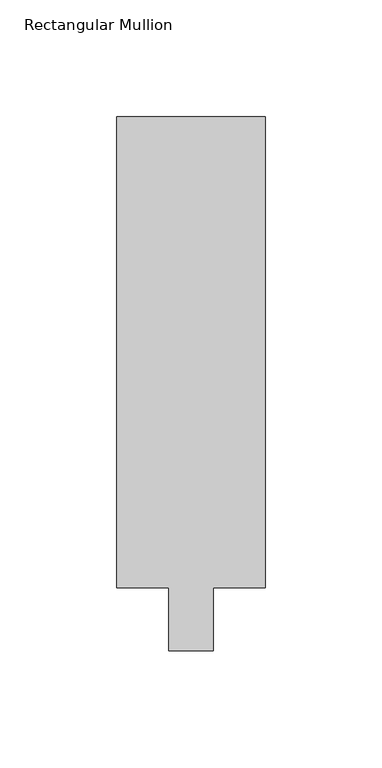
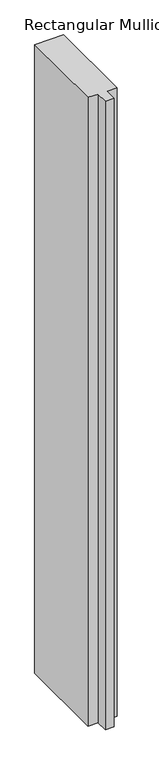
"""IFC4 building model written with IfcOpenShell, lengths in millimetres: member geometry."""

from ifc_helpers import new_model, si_unit, frame, origin, place, context, project, spatial, polyline, outline, extrude, source, transform, mapped, element, save


def rectangular_mullion_a33d8cd0(model_context):
    return source(origin(), model_context, "Body", "SweptSolid", [
        extrude(outline(polyline([(31.75, 228.6), (31.75, 26.9875), (9.525, 26.9875), (9.525, 0.0), (-9.525, 0.0), (-9.525, 26.9875), (-31.75, 26.9875), (-31.75, 228.6), (31.75, 228.6)])), frame((0.0, 0.0, -1451.4863175), z_axis=(0.0, 0.0, 1.0), x_axis=(1.0, 0.0, 0.0)), (0.0, 0.0, 1.0), 1451.4863175),
    ])


if __name__ == "__main__":
    model = new_model("IFC4")
    model_context = context("Model", 3, world=origin())
    ifc_project = project(units=[si_unit("LENGTHUNIT", "METRE", prefix="MILLI")], contexts=[model_context])
    site = spatial("IfcSite", under=ifc_project)
    building = spatial("IfcBuilding", under=site)
    placement = place(None, origin())
    rectangular_mullion_shape = rectangular_mullion_a33d8cd0(model_context)
    element("IfcMember", 1, ObjectType="Rectangular Mullion : 2 1/2\" x 8\" - Capless", at=placement, inside=building, context=model_context, shape_type="MappedRepresentation", body=[
        mapped(rectangular_mullion_shape, transform((0.0, 0.0, 0.0), x_axis=(1.0, 0.0, 0.0), y_axis=(0.0, 1.0, 0.0), z_axis=(0.0, 0.0, 1.0))),
    ])
    save(model, "model.ifc")
